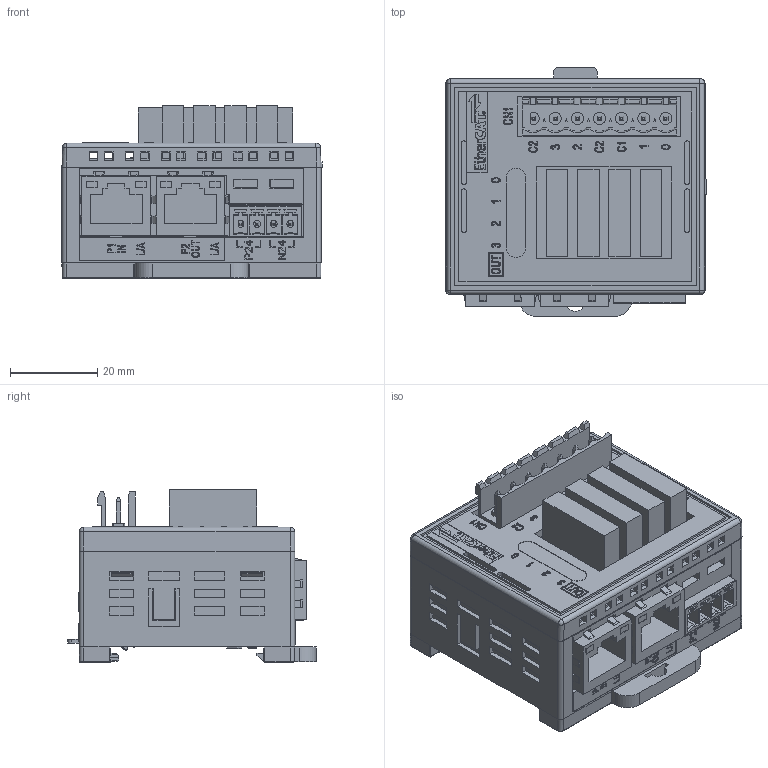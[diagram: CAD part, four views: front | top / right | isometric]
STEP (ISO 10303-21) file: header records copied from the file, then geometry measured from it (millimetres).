
FILE_DESCRIPTION((''),'2;1');
FILE_NAME('ECCBY04','2026-05-11T15:10:48',('gijyu181'),(''),'CREO PARAMETRIC BY PTC INC, 2018050','CREO PARAMETRIC BY PTC INC, 2018050','');
FILE_SCHEMA(('CONFIG_CONTROL_DESIGN','SHAPE_APPEARANCE_LAYERS_GROUPS'));
Products named in the file (1): ECCBY04
Bounding box: 59.75 x 57.15 x 39.6 mm (x, y, z)
Volume: 72227.6 mm3; surface area: 38303.4 mm2
Topology: 1 solids, 15 shells, 5302 faces, 14664 edges, 9666 vertices
Faces by surface type: plane 3802, cylinder 692, extrusion 676, sphere 51, cone 31, torus 26, bspline 24
Entity records: 215113 total; most frequent: CARTESIAN_POINT 38390, ORIENTED_EDGE 29296, DIRECTION 24256, EDGE_CURVE 14652, VECTOR 12228, LINE 11552, VERTEX_POINT 9666, PRESENTATION_STYLE_ASSIGNMENT 8850
